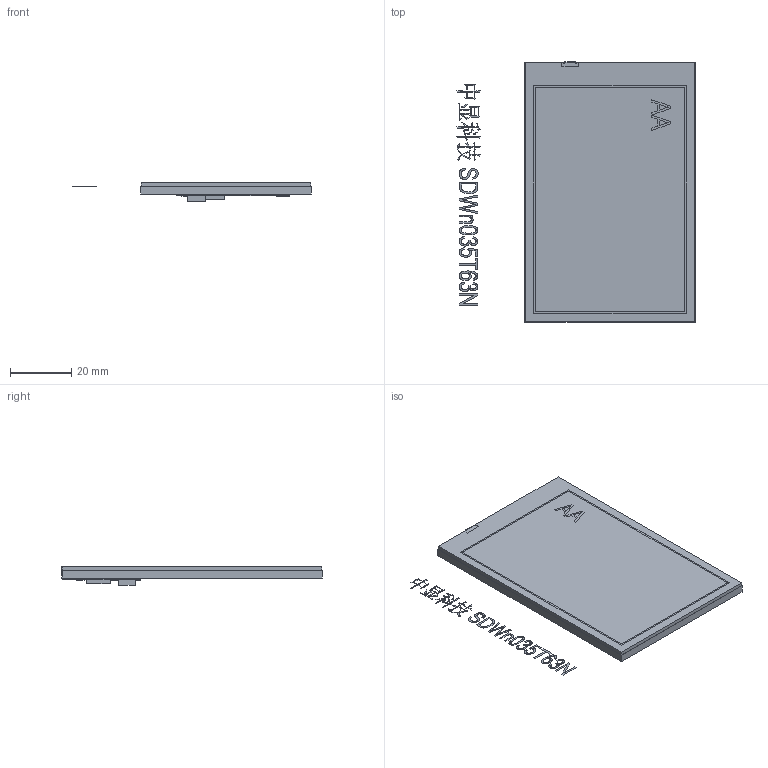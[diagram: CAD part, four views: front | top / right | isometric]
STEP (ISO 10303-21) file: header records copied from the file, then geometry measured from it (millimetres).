
FILE_DESCRIPTION(/* description */ (''),/* implementation_level */ '2;1');
FILE_NAME(/* name */ '3D_SDWn035T63T.stp',/* time_stamp */ '2020-07-31T16:12:44+08:00',/* author */ (''),/* organization */ (''),/* preprocessor_version */ 'ST-DEVELOPER v15',/* originating_system */ 'SIEMENS PLM Software NX 8.5',/* authorisation */ '');
FILE_SCHEMA (('AP203_CONFIGURATION_CONTROLLED_3D_DESIGN_OF_MECHANICAL_PARTS_AND_ASSEMBLIES_MIM_LF { 1 0 10303 403 2 1 2}'));
Length unit declared in the file: millimetre
Products named in the file (1): 3.5
Bounding box: 77.93 x 85.14 x 6.14 mm (x, y, z)
Volume: 35831.3 mm3; surface area: 40747.3 mm2
Topology: 107 solids, 107 shells, 937 faces, 2153 edges, 1432 vertices
Faces by surface type: plane 819, extrusion 94, cylinder 24
Entity records: 32180 total; most frequent: CARTESIAN_POINT 7613, ORIENTED_EDGE 4306, DIRECTION 3403, EDGE_CURVE 2153, VECTOR 1619, LINE 1525, VERTEX_POINT 1432, EDGE_LOOP 955
